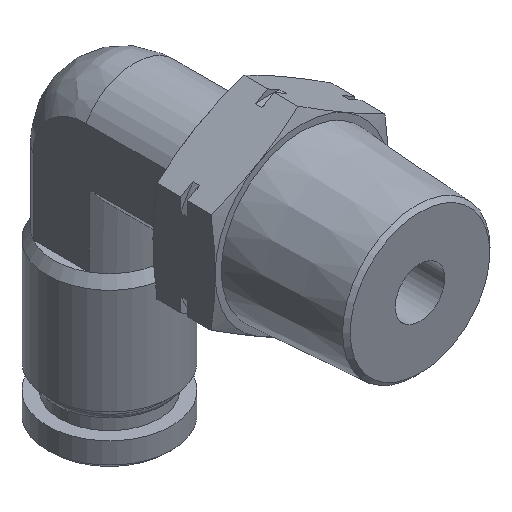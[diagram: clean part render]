
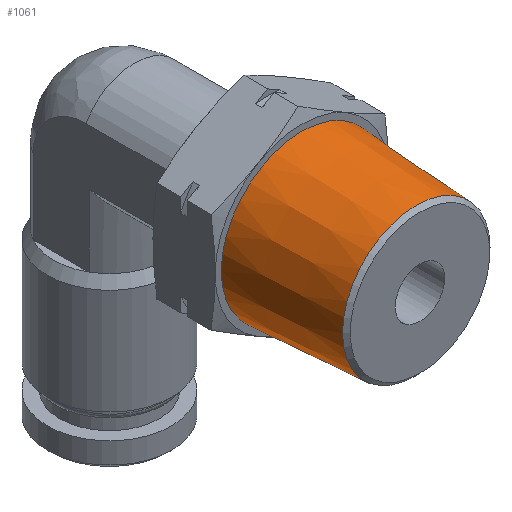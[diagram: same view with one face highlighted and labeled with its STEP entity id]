
A CAD part, isometric view. The second image highlights one B-rep face of the part: STEP entity #1061.
In plain terms, the highlighted conical face has half-angle 3.5 degrees and reference radius 6.21 mm.
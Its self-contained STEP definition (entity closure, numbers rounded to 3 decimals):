
#28=CONICAL_SURFACE('',#1166,6.209,0.061);
#106=FACE_OUTER_BOUND('',#173,.T.);
#173=EDGE_LOOP('',(#785,#786,#787,#788,#789));
#240=CIRCLE('',#1164,5.937);
#241=CIRCLE('',#1165,5.937);
#242=CIRCLE('',#1167,6.5);
#334=LINE('',#1747,#406);
#406=VECTOR('',#1379,6.209);
#482=VERTEX_POINT('',#1740);
#483=VERTEX_POINT('',#1742);
#484=VERTEX_POINT('',#1746);
#599=EDGE_CURVE('',#482,#483,#240,.T.);
#600=EDGE_CURVE('',#483,#482,#241,.T.);
#601=EDGE_CURVE('',#483,#484,#334,.T.);
#602=EDGE_CURVE('',#484,#484,#242,.T.);
#785=ORIENTED_EDGE('',*,*,#599,.F.);
#786=ORIENTED_EDGE('',*,*,#600,.F.);
#787=ORIENTED_EDGE('',*,*,#601,.T.);
#788=ORIENTED_EDGE('',*,*,#602,.F.);
#789=ORIENTED_EDGE('',*,*,#601,.F.);
#1061=ADVANCED_FACE('',(#106),#28,.T.);
#1164=AXIS2_PLACEMENT_3D('',#1743,#1373,#1374);
#1165=AXIS2_PLACEMENT_3D('',#1744,#1375,#1376);
#1166=AXIS2_PLACEMENT_3D('',#1745,#1377,#1378);
#1167=AXIS2_PLACEMENT_3D('',#1748,#1380,#1381);
#1373=DIRECTION('center_axis',(0.,-1.,0.));
#1374=DIRECTION('ref_axis',(0.,0.,1.));
#1375=DIRECTION('center_axis',(0.,-1.,0.));
#1376=DIRECTION('ref_axis',(0.,0.,1.));
#1377=DIRECTION('center_axis',(0.,1.,0.));
#1378=DIRECTION('ref_axis',(0.,0.,-1.));
#1379=DIRECTION('',(0.,0.998,0.061));
#1380=DIRECTION('center_axis',(0.,1.,0.));
#1381=DIRECTION('ref_axis',(0.,0.,-1.));
#1740=CARTESIAN_POINT('',(0.,-15.201,-5.937));
#1742=CARTESIAN_POINT('',(0.,-15.201,5.937));
#1743=CARTESIAN_POINT('Origin',(0.,-15.201,
0.));
#1744=CARTESIAN_POINT('Origin',(0.,-15.201,
0.));
#1745=CARTESIAN_POINT('Origin',(0.,-10.75,0.));
#1746=CARTESIAN_POINT('',(0.,-6.,6.5));
#1747=CARTESIAN_POINT('',(0.,-10.75,6.209));
#1748=CARTESIAN_POINT('Origin',(0.,-6.,0.));
